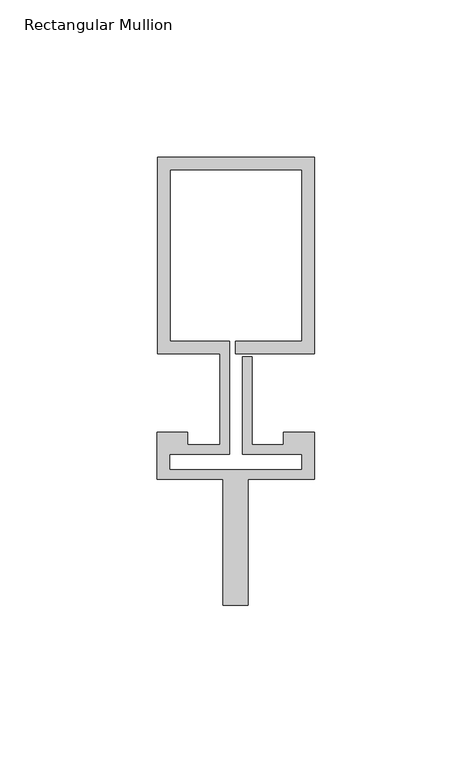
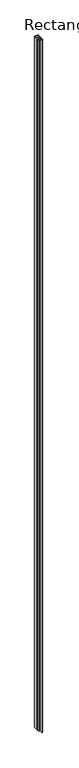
"""IFC4 building model written with IfcOpenShell, lengths in millimetres: member geometry, Rectangular Mullion : Reynaers_CW-50_Mullion-Transom_Vertical_62.5mm_Facecap-06B."""

import ifcopenshell
import ifcopenshell.guid

model = None  # the IFC model being written
_history = None  # IfcOwnerHistory: only IFC2X3 demands one
_inside = {}  # id of a spatial element -> (the spatial element, [elements in it])
_under = {}  # id of a project, library or spatial element -> (it, [spatial elements below it])
_declared = {}  # id of a project -> (the project, [libraries it declares])
_typed = {}  # id of a type object -> (the type object, [elements of that type])
_made_of = {}  # id of a material, layer set ... -> (it, [elements and type objects made of it])


def new_model(schema):
    """Start an empty IFC model of exactly this schema.

    Asked for "IFC4X3", IfcOpenShell would pick the latest addendum, in which some entities
    have other attributes; the version numbers below select the first issue.
    IFC2X3 requires an IfcOwnerHistory on every rooted entity: one is made here for all.
    """
    global model, _history
    if schema == "IFC4X3":
        model = ifcopenshell.file(schema_version=(4, 3, 0, 0))
    else:
        model = ifcopenshell.file(schema=schema)
    _inside.clear()
    _under.clear()
    _declared.clear()
    _typed.clear()
    _made_of.clear()
    _history = None
    if model.schema == "IFC2X3":
        org = make("IfcOrganization", Name="unknown")
        user = make(
            "IfcPersonAndOrganization",
            ThePerson=make("IfcPerson", FamilyName="unknown"),
            TheOrganization=org,
        )
        app = make(
            "IfcApplication",
            ApplicationDeveloper=org,
            Version="unknown",
            ApplicationFullName="unknown",
            ApplicationIdentifier="unknown",
        )
        _history = make(
            "IfcOwnerHistory",
            OwningUser=user,
            OwningApplication=app,
            ChangeAction="ADDED",
            CreationDate=0,
        )
    return model


def make(cls, **values):
    """One entity of the class cls with the attributes given. An attribute that is None is left unset."""
    return model.create_entity(
        cls, **{name: value for name, value in values.items() if value is not None}
    )


def rooted(cls, **values):
    """An entity with a GlobalId (a new one), such as an element, a storey or a relation."""
    return make(cls, GlobalId=ifcopenshell.guid.new(), OwnerHistory=_history, **values)


def si_unit(unit_type, name, prefix=None):
    """IfcSIUnit, for example si_unit("LENGTHUNIT", "METRE", prefix="MILLI")."""
    return make("IfcSIUnit", UnitType=unit_type, Prefix=prefix, Name=name)


def assignment(units):
    """IfcUnitAssignment: the units of a project."""
    return None if units is None else make("IfcUnitAssignment", Units=units)


def point(xyz):
    """IfcCartesianPoint."""
    return None if xyz is None else make("IfcCartesianPoint", Coordinates=xyz)


def direction(xyz):
    """IfcDirection."""
    return None if xyz is None else make("IfcDirection", DirectionRatios=xyz)


def frame(location, z_axis=None, x_axis=None):
    """IfcAxis2Placement3D, a coordinate frame: its origin and axes. An axis left out is left unset."""
    return make(
        "IfcAxis2Placement3D",
        Location=point(location),
        Axis=direction(z_axis),
        RefDirection=direction(x_axis),
    )


def origin():
    """The frame at (0, 0, 0) with its axes left unset."""
    return frame((0.0, 0.0, 0.0))


def place(relative_to, where):
    """IfcLocalPlacement: puts the frame where relative to a parent placement (None: the world)."""
    return make(
        "IfcLocalPlacement", PlacementRelTo=relative_to, RelativePlacement=where
    )


def context(
    kind, dimensions, precision=None, world=None, true_north=None, identifier=None
):
    """IfcGeometricRepresentationContext, for example the 3D "Model" context."""
    return make(
        "IfcGeometricRepresentationContext",
        ContextIdentifier=identifier,
        ContextType=kind,
        CoordinateSpaceDimension=dimensions,
        Precision=precision,
        WorldCoordinateSystem=world,
        TrueNorth=true_north,
    )


def project(units=None, contexts=None):
    """IfcProject with its units and contexts."""
    return rooted(
        "IfcProject",
        Name="project",
        RepresentationContexts=contexts,
        UnitsInContext=assignment(units),
    )


def spatial(cls, under=None, at=None, **own):
    """A site, building, storey or space (cls), placed at a placement, below another one or the project."""
    s = rooted(cls, ObjectPlacement=at, **own)
    if under is not None:
        _under.setdefault(under.id(), (under, []))[1].append(s)
    return s


def polyline(points):
    """IfcPolyline through the points."""
    return make("IfcPolyline", Points=[point(p) for p in points])


def outline(outer, holes=None, kind="AREA"):
    """IfcArbitraryClosedProfileDef: a profile drawn as a closed curve; with holes, ...WithVoids."""
    if holes is None:
        return make("IfcArbitraryClosedProfileDef", ProfileType=kind, OuterCurve=outer)
    return make(
        "IfcArbitraryProfileDefWithVoids",
        ProfileType=kind,
        OuterCurve=outer,
        InnerCurves=holes,
    )


def extrude(swept, where, along, depth):
    """IfcExtrudedAreaSolid: the profile swept, set in the frame where, extruded along a direction by depth."""
    return make(
        "IfcExtrudedAreaSolid",
        SweptArea=swept,
        Position=where,
        ExtrudedDirection=direction(along),
        Depth=depth,
    )


def shape(context_of_items, identifier, shape_type, items):
    """IfcShapeRepresentation: the items that make up one representation, for example the "Body"."""
    return make(
        "IfcShapeRepresentation",
        ContextOfItems=context_of_items,
        RepresentationIdentifier=identifier,
        RepresentationType=shape_type,
        Items=items,
    )


def source(mapping_origin, context_of_items, identifier, shape_type, items):
    """IfcRepresentationMap: a shape defined once, which mapped items show again and again."""
    return make(
        "IfcRepresentationMap",
        MappingOrigin=mapping_origin,
        MappedRepresentation=shape(context_of_items, identifier, shape_type, items),
    )


def transform(
    local_origin,
    x_axis=None,
    y_axis=None,
    z_axis=None,
    scale=None,
    scale2=None,
    scale3=None,
    uniform=True,
):
    """IfcCartesianTransformationOperator3D, or its non-uniform kind. x_axis, y_axis, z_axis: its Axis1, 2, 3."""
    if uniform:
        return make(
            "IfcCartesianTransformationOperator3D",
            Axis1=direction(x_axis),
            Axis2=direction(y_axis),
            LocalOrigin=point(local_origin),
            Scale=scale,
            Axis3=direction(z_axis),
        )
    return make(
        "IfcCartesianTransformationOperator3DnonUniform",
        Axis1=direction(x_axis),
        Axis2=direction(y_axis),
        LocalOrigin=point(local_origin),
        Scale=scale,
        Axis3=direction(z_axis),
        Scale2=scale2,
        Scale3=scale3,
    )


def mapped(mapping_source, mapping_target):
    """IfcMappedItem: shows the shape of a source again, moved by a transform."""
    return make(
        "IfcMappedItem", MappingSource=mapping_source, MappingTarget=mapping_target
    )


def made_of(thing, what):
    """Note that an element or type object is made of a material, layer set ...; save() writes the relation."""
    if what is not None:
        _made_of.setdefault(what.id(), (what, []))[1].append(thing)
    return thing


def element(
    cls,
    number,
    at=None,
    inside=None,
    cuts=None,
    type_object=None,
    material=None,
    context=None,
    identifier="Body",
    shape_type=None,
    held_by="IfcProductDefinitionShape",
    body=None,
    shapes=None,
    **own,
):
    """One element of the class cls, such as IfcWall. Its Tag is "e" and its number.

    at: its placement. inside: the storey or other place that contains it. cuts: it is an
    opening in that element (IfcRelVoidsElement). A single representation is given by context,
    identifier, shape_type and body (its items); several are given by shapes. held_by: the class
    of the entity that holds the representations. save() writes the other relations.
    """
    e = rooted(cls, Tag="e%d" % number, ObjectPlacement=at, **own)
    if body is not None:
        shapes = [shape(context, identifier, shape_type, body)]
    if shapes is not None:
        e.Representation = make(held_by, Representations=shapes)
    if inside is not None:
        _inside.setdefault(inside.id(), (inside, []))[1].append(e)
    if cuts is not None:
        rooted(
            "IfcRelVoidsElement", RelatingBuildingElement=cuts, RelatedOpeningElement=e
        )
    if type_object is not None:
        _typed.setdefault(type_object.id(), (type_object, []))[1].append(e)
    return made_of(e, material)


def aggregate(whole, parts):
    """IfcRelAggregates: a whole, such as a stair, and the parts it consists of."""
    return rooted("IfcRelAggregates", RelatingObject=whole, RelatedObjects=parts)


def save(model, path):
    """Write the relations noted so far, then the file.

    IfcRelAggregates (storeys below a building ...), IfcRelContainedInSpatialStructure (elements
    in a storey), IfcRelDefinesByType, IfcRelAssociatesMaterial and IfcRelDeclares: one each for
    every whole, place, type object, material and project.
    """
    for whole, parts in _under.values():
        aggregate(whole, parts)
    for where, things in _inside.values():
        rooted(
            "IfcRelContainedInSpatialStructure",
            RelatedElements=things,
            RelatingStructure=where,
        )
    for kind, things in _typed.values():
        rooted("IfcRelDefinesByType", RelatedObjects=things, RelatingType=kind)
    for what, things in _made_of.values():
        rooted("IfcRelAssociatesMaterial", RelatedObjects=things, RelatingMaterial=what)
    for by, libraries in _declared.values():
        rooted("IfcRelDeclares", RelatingContext=by, RelatedDefinitions=libraries)
    model.write(path)


def rectangular_mullion_2adb346b(model_context):
    return source(origin(), model_context, "Body", "SweptSolid", [
        extrude(outline(polyline([(-24.8004059, 75.0), (25.1995941, 75.0), (25.1995941, 12.5), (0.0, 12.5), (0.0, 16.5), (21.1995941, 16.5), (21.1995941, 71.0), (-20.8004059, 71.0), (-20.8004059, 16.5), (-1.9004059, 16.5), (-1.9004059, -19.5), (-20.994845, -19.5), (-20.994845, -24.4191338), (21.1995941, -24.4191338), (21.1995941, -19.5), (2.2995941, -19.5), (2.2995941, 11.5), (5.2995941, 11.5), (5.2995941, -16.5), (15.2996495, -16.5), (15.2996495, -12.5), (25.1995941, -12.5), (25.1995941, -27.5), (4.004855, -27.5), (4.004855, -67.5), (-3.995145, -67.5), (-3.995145, -27.5), (-24.994845, -27.5), (-24.994845, -12.5), (-15.2996495, -12.5), (-15.2996495, -16.5), (-4.9004059, -16.5), (-4.9004059, 12.5), (-24.8004059, 12.5), (-24.8004059, 75.0)])), frame((0.0, 0.0, -10400.0), z_axis=(0.0, 0.0, 1.0), x_axis=(1.0, 0.0, 0.0)), (0.0, 0.0, 1.0), 10400.0),
    ])


if __name__ == "__main__":
    model = new_model("IFC4")
    model_context = context("Model", 3, world=origin())
    ifc_project = project(units=[si_unit("LENGTHUNIT", "METRE", prefix="MILLI")], contexts=[model_context])
    site = spatial("IfcSite", under=ifc_project)
    building = spatial("IfcBuilding", under=site)
    placement = place(None, origin())
    rectangular_mullion_shape = rectangular_mullion_2adb346b(model_context)
    element("IfcMember", 1, ObjectType="Rectangular Mullion : Reynaers_CW-50_Mullion-Transom_Vertical_62.5mm_Facecap-06B", at=placement, inside=building, context=model_context, shape_type="MappedRepresentation", body=[
        mapped(rectangular_mullion_shape, transform((0.0, 0.0, 0.0), x_axis=(1.0, 0.0, 0.0), y_axis=(0.0, 1.0, 0.0), z_axis=(0.0, 0.0, 1.0))),
    ])
    save(model, "model.ifc")
